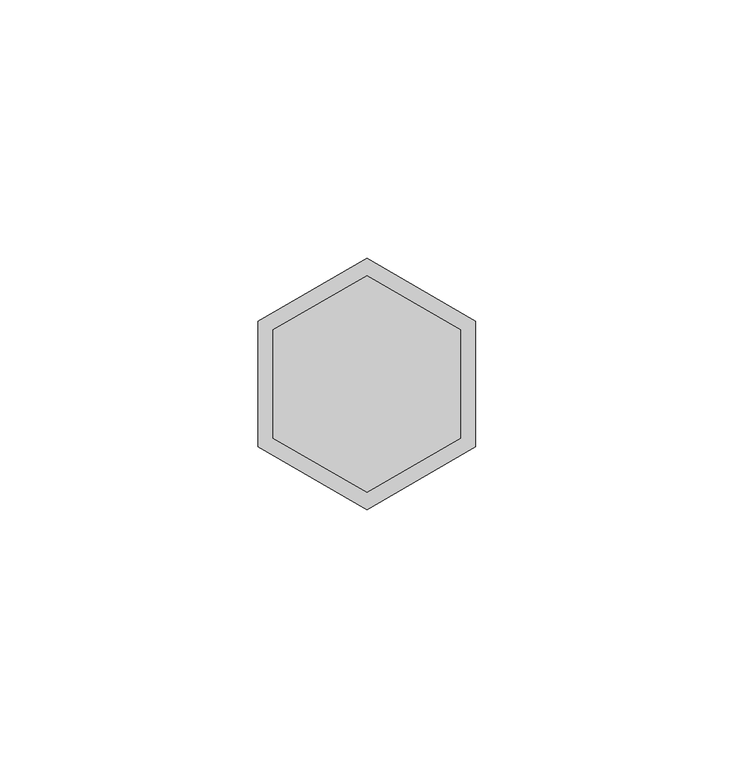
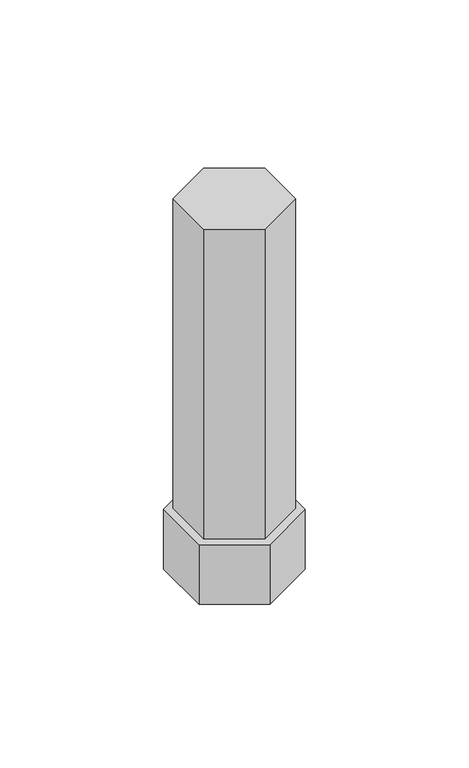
"""IFC4 building model written with IfcOpenShell, lengths in millimetres: proxy geometry, 梁枠部品ピン_軽 : 梁枠部品ピン_軽."""

from ifc_helpers import new_model, si_unit, frame, origin, place, context, project, spatial, polyline, outline, extrude, source, transform, mapped, element, save


def generic_models_ce839660(model_context):
    return source(origin(), model_context, "Body", "SweptSolid", [
        extrude(outline(polyline([(21.0444173, -12.15), (0.0, -24.3), (-21.0444173, -12.15), (-21.0444173, 12.15), (0.0, 24.3), (21.0444173, 12.15), (21.0444173, -12.15)])), frame((0.0, 0.0, 45.0), z_axis=(0.0, 0.0, 1.0), x_axis=(1.0, 0.0, 0.0)), (0.0, 0.0, 1.0), 25.0),
        extrude(outline(polyline([(-18.1432322, 10.475), (0.0, 20.95), (18.1432322, 10.475), (18.1432322, -10.475), (0.0, -20.95), (-18.1432322, -10.475), (-18.1432322, 10.475)])), frame((0.0, 0.0, 70.0), z_axis=(0.0, 0.0, 1.0), x_axis=(1.0, 0.0, 0.0)), (0.0, 0.0, 1.0), 130.0000051),
    ])


if __name__ == "__main__":
    model = new_model("IFC4")
    model_context = context("Model", 3, world=origin())
    ifc_project = project(units=[si_unit("LENGTHUNIT", "METRE", prefix="MILLI")], contexts=[model_context])
    site = spatial("IfcSite", under=ifc_project)
    building = spatial("IfcBuilding", under=site)
    placement = place(None, origin())
    generic_models_shape = generic_models_ce839660(model_context)
    element("IfcBuildingElementProxy", 1, Name="梁枠部品ピン_軽 : 梁枠部品ピン_軽", ObjectType="梁枠部品ピン_軽 : 梁枠部品ピン_軽", at=placement, inside=building, context=model_context, shape_type="MappedRepresentation", body=[
        mapped(generic_models_shape, transform((0.0, 0.0, 0.0), x_axis=(1.0, 0.0, 0.0), y_axis=(0.0, 1.0, 0.0), z_axis=(0.0, 0.0, 1.0))),
    ])
    save(model, "model.ifc")
